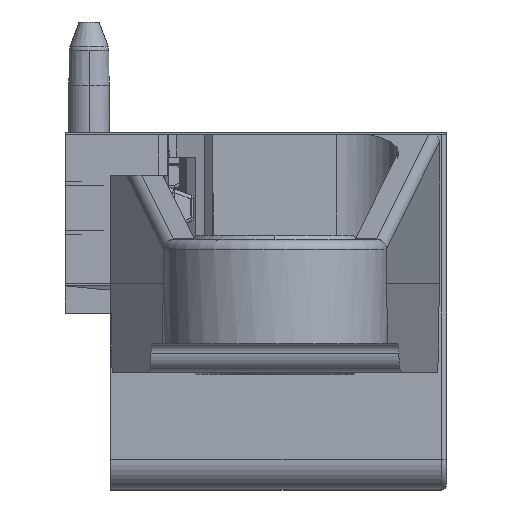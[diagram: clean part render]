
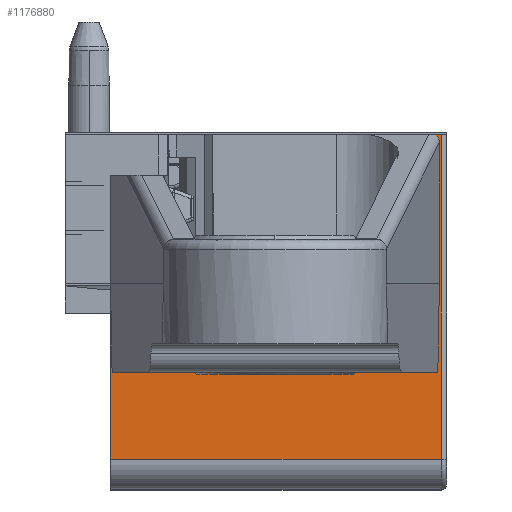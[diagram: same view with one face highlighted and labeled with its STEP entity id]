
A CAD part, left-side view. The second image highlights one B-rep face of the part: STEP entity #1176880.
In plain terms, the highlighted planar face has unit normal (-1, 0, 0).
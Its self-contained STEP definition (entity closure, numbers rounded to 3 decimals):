
#1042500=CARTESIAN_POINT('',(-15.6,5.2,18.7));
#1042510=VERTEX_POINT('',#1042500);
#1042540=CARTESIAN_POINT('',(-15.6,5.2,0.));
#1042550=DIRECTION('',(0.,0.,-1.));
#1042560=VECTOR('',#1042550,1.);
#1042570=LINE('',#1042540,#1042560);
#1042580=CARTESIAN_POINT('',(-15.6,5.2,
18.41));
#1042590=VERTEX_POINT('',#1042580);
#1042600=EDGE_CURVE('',#1042510,#1042590,#1042570,.T.);
#1096790=CARTESIAN_POINT('',(-15.6,4.8,
18.6));
#1096800=VERTEX_POINT('',#1096790);
#1096830=CARTESIAN_POINT('',(-15.6,0.,18.6));
#1096840=DIRECTION('',(0.,1.,0.));
#1096850=VECTOR('',#1096840,1.);
#1096860=LINE('',#1096830,#1096850);
#1096870=CARTESIAN_POINT('',(-15.6,-2.1,
18.6));
#1096880=VERTEX_POINT('',#1096870);
#1096890=EDGE_CURVE('',#1096880,#1096800,#1096860,.T.);
#1106700=CARTESIAN_POINT('',(-15.6,4.775,
18.094));
#1106710=DIRECTION('',(-1.,0.,0.));
#1106720=DIRECTION('',(0.,0.896,0.444));
#1106730=AXIS2_PLACEMENT_3D('',#1106700,#1106710,#1106720);
#1106740=ELLIPSE('',#1106730,0.531,0.5);
#1106750=EDGE_CURVE('',#1096800,#1042590,#1106740,.T.);
#1107090=CARTESIAN_POINT('',(-15.6,0.,18.637));
#1107100=DIRECTION('',(0.,1.,0.018));
#1107110=VECTOR('',#1107100,1.);
#1107120=LINE('',#1107090,#1107110);
#1107130=CARTESIAN_POINT('',(-15.6,-6.43,
18.523));
#1107140=VERTEX_POINT('',#1107130);
#1107150=EDGE_CURVE('',#1107140,#1096880,#1107120,.T.);
#1176390=CARTESIAN_POINT('',(-15.6,-10.4,
0.));
#1176400=DIRECTION('',(-1.,0.,0.));
#1176410=DIRECTION('',(0.,1.,0.));
#1176420=AXIS2_PLACEMENT_3D('',#1176390,#1176400,#1176410);
#1176430=PLANE('',#1176420);
#1176440=CARTESIAN_POINT('',(-15.6,-10.7,0.));
#1176450=DIRECTION('',(0.,0.,-1.));
#1176460=VECTOR('',#1176450,1.);
#1176470=LINE('',#1176440,#1176460);
#1176480=CARTESIAN_POINT('',(-15.6,-10.7,18.7));
#1176490=VERTEX_POINT('',#1176480);
#1176500=CARTESIAN_POINT('',(-15.6,-10.7,2.5));
#1176510=VERTEX_POINT('',#1176500);
#1176520=EDGE_CURVE('',#1176490,#1176510,#1176470,.T.);
#1176530=ORIENTED_EDGE('',*,*,#1176520,.F.);
#1176540=CARTESIAN_POINT('',(-15.6,-2.1,
2.5));
#1176550=DIRECTION('',(0.,-1.,0.));
#1176560=VECTOR('',#1176550,1.);
#1176570=LINE('',#1176540,#1176560);
#1176580=CARTESIAN_POINT('',(-15.6,-2.1,2.5));
#1176590=VERTEX_POINT('',#1176580);
#1176600=EDGE_CURVE('',#1176590,#1176510,#1176570,.T.);
#1176610=ORIENTED_EDGE('',*,*,#1176600,.T.);
#1176620=CARTESIAN_POINT('',(-15.6,-6.43,
2.577));
#1176630=DIRECTION('',(0.,1.,
-0.018));
#1176640=VECTOR('',#1176630,1.);
#1176650=LINE('',#1176620,#1176640);
#1176660=CARTESIAN_POINT('',(-15.6,-6.43,
2.577));
#1176670=VERTEX_POINT('',#1176660);
#1176680=EDGE_CURVE('',#1176670,#1176590,#1176650,.T.);
#1176690=ORIENTED_EDGE('',*,*,#1176680,.T.);
#1176700=CARTESIAN_POINT('',(-15.6,-6.43,0.));
#1176710=DIRECTION('',(0.,0.,-1.));
#1176720=VECTOR('',#1176710,1.);
#1176730=LINE('',#1176700,#1176720);
#1176740=EDGE_CURVE('',#1107140,#1176670,#1176730,.T.);
#1176750=ORIENTED_EDGE('',*,*,#1176740,.T.);
#1176760=ORIENTED_EDGE('',*,*,#1107150,.F.);
#1176770=ORIENTED_EDGE('',*,*,#1096890,.F.);
#1176780=ORIENTED_EDGE('',*,*,#1106750,.F.);
#1176790=ORIENTED_EDGE('',*,*,#1042600,.T.);
#1176800=CARTESIAN_POINT('',(-15.6,0.,18.7));
#1176810=DIRECTION('',(0.,-1.,0.));
#1176820=VECTOR('',#1176810,1.);
#1176830=LINE('',#1176800,#1176820);
#1176840=EDGE_CURVE('',#1042510,#1176490,#1176830,.T.);
#1176850=ORIENTED_EDGE('',*,*,#1176840,.F.);
#1176860=EDGE_LOOP('',(#1176850,#1176790,#1176780,#1176770,#1176760,
#1176750,#1176690,#1176610,#1176530));
#1176870=FACE_OUTER_BOUND('',#1176860,.T.);
#1176880=ADVANCED_FACE('',(#1176870),#1176430,.T.);
